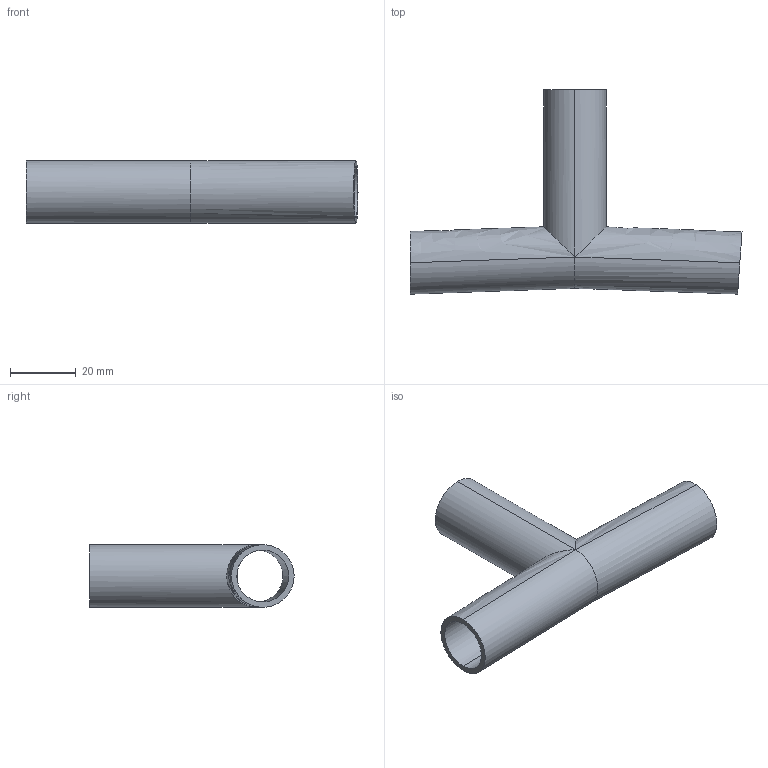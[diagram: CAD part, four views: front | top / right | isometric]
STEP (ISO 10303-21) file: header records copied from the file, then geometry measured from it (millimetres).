
FILE_DESCRIPTION (( 'STEP AP214' ), '1' );
FILE_NAME ('TA176WWW 0.75.STEP', '2025-07-29T20:30:35', ( '' ), ( '' ), 'SwSTEP 2.0', 'SolidWorks 2022', '' );
FILE_SCHEMA (( 'AUTOMOTIVE_DESIGN' ));
Length unit declared in the file: inch
Products named in the file (1): TA176WWW 0.75
Bounding box: 100.88 x 62.07 x 19.05 mm (x, y, z)
Volume: 12648.1 mm3; surface area: 15582.6 mm2
Topology: 1 solids, 1 shells, 15 faces, 30 edges, 16 vertices
Faces by surface type: bspline 8, cylinder 4, plane 3
Entity records: 1679 total; most frequent: CARTESIAN_POINT 1381, ORIENTED_EDGE 60, DIRECTION 36, EDGE_CURVE 30, EDGE_LOOP 18, B_SPLINE_CURVE_WITH_KNOTS 18, AXIS2_PLACEMENT_3D 16, VERTEX_POINT 16
